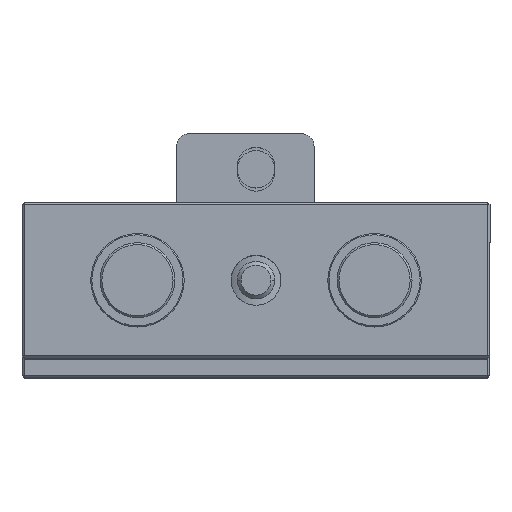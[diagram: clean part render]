
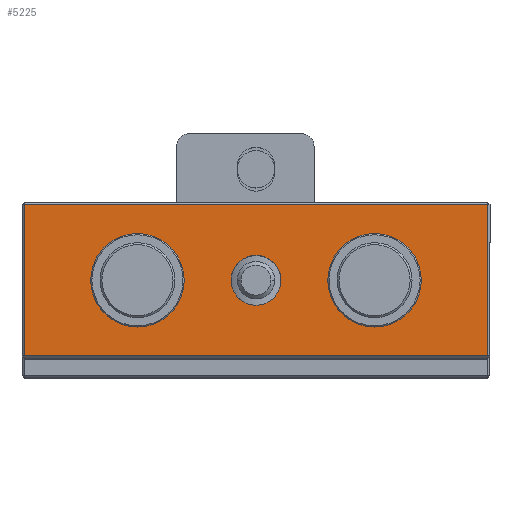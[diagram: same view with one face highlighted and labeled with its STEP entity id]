
A CAD part, top view. The second image highlights one B-rep face of the part: STEP entity #5225.
In plain terms, the highlighted planar face has unit normal (0, 0, 1) as drawn and (0, 0, -1) by its records, which use the part's own axes.
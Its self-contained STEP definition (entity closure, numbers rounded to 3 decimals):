
#5 = VECTOR ( 'NONE', #9562, 1000. ) ;
#116 = EDGE_LOOP ( 'NONE', ( #12615, #6129 ) ) ;
#122 = EDGE_LOOP ( 'NONE', ( #10288, #3355 ) ) ;
#167 = VERTEX_POINT ( 'NONE', #6974 ) ;
#426 = VERTEX_POINT ( 'NONE', #13927 ) ;
#457 = EDGE_LOOP ( 'NONE', ( #1779, #11139 ) ) ;
#509 = CARTESIAN_POINT ( 'NONE',  ( 0., 0., -37.5 ) ) ;
#524 = CARTESIAN_POINT ( 'NONE',  ( -37.1, 12.1, -37.5 ) ) ;
#1170 = CARTESIAN_POINT ( 'NONE',  ( -37.1, -12.1, -37.5 ) ) ;
#1217 = CARTESIAN_POINT ( 'NONE',  ( -37.5, 12.5, -37.5 ) ) ;
#1397 = DIRECTION ( 'NONE',  ( 0., 0., -1. ) ) ;
#1421 = ORIENTED_EDGE ( 'NONE', *, *, #13735, .T. ) ;
#1472 = CIRCLE ( 'NONE', #3652, 7.49 ) ;
#1557 = DIRECTION ( 'NONE',  ( 0., 1., 0. ) ) ;
#1607 = CIRCLE ( 'NONE', #5125, 7.49 ) ;
#1779 = ORIENTED_EDGE ( 'NONE', *, *, #13738, .F. ) ;
#1936 = FACE_OUTER_BOUND ( 'NONE', #12011, .T. ) ;
#2184 = CARTESIAN_POINT ( 'NONE',  ( -19., 0., -37.5 ) ) ;
#2249 = AXIS2_PLACEMENT_3D ( 'NONE', #5166, #13124, #6336 ) ;
#2289 = AXIS2_PLACEMENT_3D ( 'NONE', #9813, #3129, #10870 ) ;
#2429 = LINE ( 'NONE', #13072, #5 ) ;
#2614 = LINE ( 'NONE', #6969, #5108 ) ;
#2683 = VERTEX_POINT ( 'NONE', #9084 ) ;
#3129 = DIRECTION ( 'NONE',  ( 0., 0., -1. ) ) ;
#3227 = DIRECTION ( 'NONE',  ( 0., 1., 0. ) ) ;
#3355 = ORIENTED_EDGE ( 'NONE', *, *, #9571, .F. ) ;
#3652 = AXIS2_PLACEMENT_3D ( 'NONE', #4120, #11947, #5218 ) ;
#3687 = DIRECTION ( 'NONE',  ( 1., 0., 0. ) ) ;
#4120 = CARTESIAN_POINT ( 'NONE',  ( -19., 0., -37.5 ) ) ;
#4584 = AXIS2_PLACEMENT_3D ( 'NONE', #7968, #1397, #9048 ) ;
#5007 = ORIENTED_EDGE ( 'NONE', *, *, #13231, .T. ) ;
#5108 = VECTOR ( 'NONE', #8087, 1000. ) ;
#5125 = AXIS2_PLACEMENT_3D ( 'NONE', #2184, #9905, #3227 ) ;
#5166 = CARTESIAN_POINT ( 'NONE',  ( 19., 0., -37.5 ) ) ;
#5212 = ORIENTED_EDGE ( 'NONE', *, *, #13732, .T. ) ;
#5218 = DIRECTION ( 'NONE',  ( 0., 1., 0. ) ) ;
#5225 = ADVANCED_FACE ( 'NONE', ( #1936, #10341, #7787, #7409 ), #11052, .F. ) ;
#5936 = CARTESIAN_POINT ( 'NONE',  ( 37.1, 12.1, -37.5 ) ) ;
#6129 = ORIENTED_EDGE ( 'NONE', *, *, #9237, .F. ) ;
#6336 = DIRECTION ( 'NONE',  ( 0., 1., 0. ) ) ;
#6635 = DIRECTION ( 'NONE',  ( 1., 0., 0. ) ) ;
#6969 = CARTESIAN_POINT ( 'NONE',  ( -37.5, -12.1, -37.5 ) ) ;
#6974 = CARTESIAN_POINT ( 'NONE',  ( -19., 7.49, -37.5 ) ) ;
#7350 = VERTEX_POINT ( 'NONE', #12776 ) ;
#7409 = FACE_BOUND ( 'NONE', #122, .T. ) ;
#7787 = FACE_BOUND ( 'NONE', #116, .T. ) ;
#7835 = LINE ( 'NONE', #9272, #10718 ) ;
#7968 = CARTESIAN_POINT ( 'NONE',  ( 0., 0., -37.5 ) ) ;
#7991 = VECTOR ( 'NONE', #9706, 1000. ) ;
#8087 = DIRECTION ( 'NONE',  ( -1., 0., 0. ) ) ;
#8143 = DIRECTION ( 'NONE',  ( 0., 0., -1. ) ) ;
#8288 = AXIS2_PLACEMENT_3D ( 'NONE', #509, #8143, #1557 ) ;
#8579 = CARTESIAN_POINT ( 'NONE',  ( 37.1, 12.5, -37.5 ) ) ;
#9031 = VERTEX_POINT ( 'NONE', #524 ) ;
#9048 = DIRECTION ( 'NONE',  ( 0., 1., 0. ) ) ;
#9084 = CARTESIAN_POINT ( 'NONE',  ( 19., 7.49, -37.5 ) ) ;
#9194 = EDGE_CURVE ( 'NONE', #426, #2683, #10335, .T. ) ;
#9237 = EDGE_CURVE ( 'NONE', #9875, #167, #1607, .T. ) ;
#9267 = CARTESIAN_POINT ( 'NONE',  ( 37.1, -12.1, -37.5 ) ) ;
#9268 = VERTEX_POINT ( 'NONE', #9992 ) ;
#9272 = CARTESIAN_POINT ( 'NONE',  ( -37.5, 12.1, -37.5 ) ) ;
#9562 = DIRECTION ( 'NONE',  ( 0., 1., 0. ) ) ;
#9571 = EDGE_CURVE ( 'NONE', #7350, #9268, #10320, .T. ) ;
#9699 = CARTESIAN_POINT ( 'NONE',  ( -19., -7.49, -37.5 ) ) ;
#9706 = DIRECTION ( 'NONE',  ( 0., -1., 0. ) ) ;
#9813 = CARTESIAN_POINT ( 'NONE',  ( 19., 0., -37.5 ) ) ;
#9875 = VERTEX_POINT ( 'NONE', #9699 ) ;
#9905 = DIRECTION ( 'NONE',  ( 0., 0., -1. ) ) ;
#9992 = CARTESIAN_POINT ( 'NONE',  ( 0., 4., -37.5 ) ) ;
#10288 = ORIENTED_EDGE ( 'NONE', *, *, #13225, .F. ) ;
#10320 = CIRCLE ( 'NONE', #4584, 4. ) ;
#10335 = CIRCLE ( 'NONE', #2289, 7.49 ) ;
#10341 = FACE_BOUND ( 'NONE', #457, .T. ) ;
#10718 = VECTOR ( 'NONE', #3687, 1000. ) ;
#10865 = CIRCLE ( 'NONE', #2249, 7.49 ) ;
#10870 = DIRECTION ( 'NONE',  ( 0., 1., 0. ) ) ;
#11052 = PLANE ( 'NONE',  #12252 ) ;
#11139 = ORIENTED_EDGE ( 'NONE', *, *, #9194, .F. ) ;
#11223 = LINE ( 'NONE', #8579, #7991 ) ;
#11411 = CIRCLE ( 'NONE', #8288, 4. ) ;
#11784 = VERTEX_POINT ( 'NONE', #9267 ) ;
#11825 = VERTEX_POINT ( 'NONE', #5936 ) ;
#11947 = DIRECTION ( 'NONE',  ( 0., 0., -1. ) ) ;
#12011 = EDGE_LOOP ( 'NONE', ( #5212, #13478, #1421, #5007 ) ) ;
#12017 = VERTEX_POINT ( 'NONE', #1170 ) ;
#12252 = AXIS2_PLACEMENT_3D ( 'NONE', #1217, #13443, #6635 ) ;
#12615 = ORIENTED_EDGE ( 'NONE', *, *, #13756, .F. ) ;
#12776 = CARTESIAN_POINT ( 'NONE',  ( 0., -4., -37.5 ) ) ;
#13072 = CARTESIAN_POINT ( 'NONE',  ( -37.1, 12.5, -37.5 ) ) ;
#13124 = DIRECTION ( 'NONE',  ( 0., 0., -1. ) ) ;
#13225 = EDGE_CURVE ( 'NONE', #9268, #7350, #11411, .T. ) ;
#13231 = EDGE_CURVE ( 'NONE', #11784, #12017, #2614, .T. ) ;
#13310 = EDGE_CURVE ( 'NONE', #9031, #11825, #7835, .T. ) ;
#13443 = DIRECTION ( 'NONE',  ( 0., 0., 1. ) ) ;
#13478 = ORIENTED_EDGE ( 'NONE', *, *, #13310, .T. ) ;
#13732 = EDGE_CURVE ( 'NONE', #12017, #9031, #2429, .T. ) ;
#13735 = EDGE_CURVE ( 'NONE', #11825, #11784, #11223, .T. ) ;
#13738 = EDGE_CURVE ( 'NONE', #2683, #426, #10865, .T. ) ;
#13756 = EDGE_CURVE ( 'NONE', #167, #9875, #1472, .T. ) ;
#13927 = CARTESIAN_POINT ( 'NONE',  ( 19., -7.49, -37.5 ) ) ;
